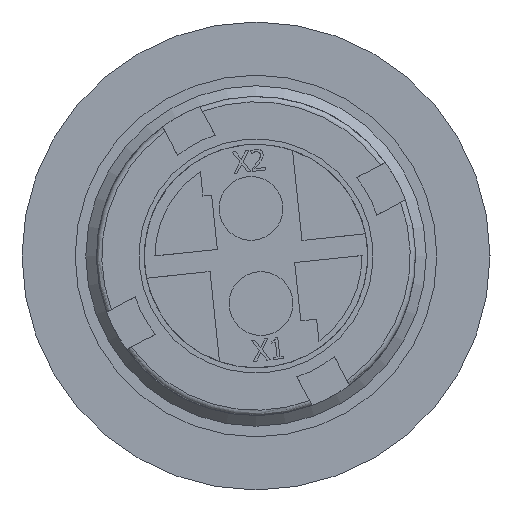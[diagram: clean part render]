
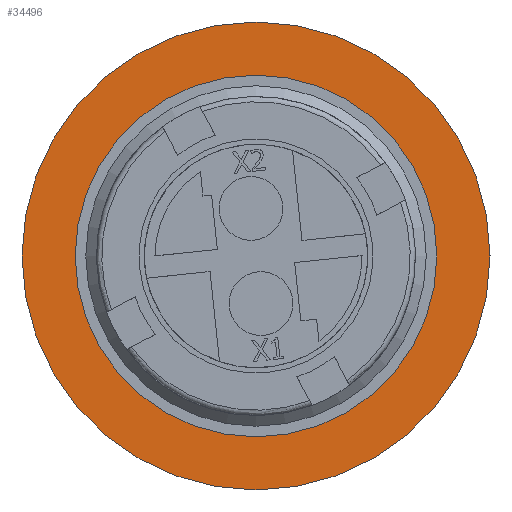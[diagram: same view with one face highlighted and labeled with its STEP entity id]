
A CAD part, front view. The second image highlights one B-rep face of the part: STEP entity #34496.
In plain terms, the highlighted planar face has unit normal (0, -1, 0).
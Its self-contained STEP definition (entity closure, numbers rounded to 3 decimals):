
#34434=CARTESIAN_POINT('',(17.,22.265,0.));
#34435=VERTEX_POINT('',#34434);
#34436=CARTESIAN_POINT('',(0.,22.265,0.0));
#34437=DIRECTION('',(0.0,1.0,0.0));
#34438=DIRECTION('',(-1.0,0.0,0.0));
#34439=AXIS2_PLACEMENT_3D('',#34436,#34437,#34438);
#34440=CIRCLE('',#34439,17.);
#34441=EDGE_CURVE('',#34435,#34435,#34440,.T.);
#34462=CARTESIAN_POINT('',(22.,22.265,0.));
#34463=VERTEX_POINT('',#34462);
#34464=CARTESIAN_POINT('',(0.,22.265,0.0));
#34465=DIRECTION('',(0.0,1.0,0.0));
#34466=DIRECTION('',(-1.0,0.0,0.0));
#34467=AXIS2_PLACEMENT_3D('',#34464,#34465,#34466);
#34468=CIRCLE('',#34467,22.0);
#34469=EDGE_CURVE('',#34463,#34463,#34468,.T.);
#34485=CARTESIAN_POINT('',(0.,22.265,0.0));
#34486=DIRECTION('',(0.0,1.0,0.0));
#34487=DIRECTION('',(-1.0,0.0,0.0));
#34488=AXIS2_PLACEMENT_3D('',#34485,#34486,#34487);
#34489=PLANE('',#34488);
#34490=ORIENTED_EDGE('',*,*,#34469,.F.);
#34491=EDGE_LOOP('',(#34490));
#34492=FACE_OUTER_BOUND('',#34491,.T.);
#34493=ORIENTED_EDGE('',*,*,#34441,.T.);
#34494=EDGE_LOOP('',(#34493));
#34495=FACE_BOUND('',#34494,.T.);
#34496=ADVANCED_FACE('',(#34492,#34495),#34489,.F.);
